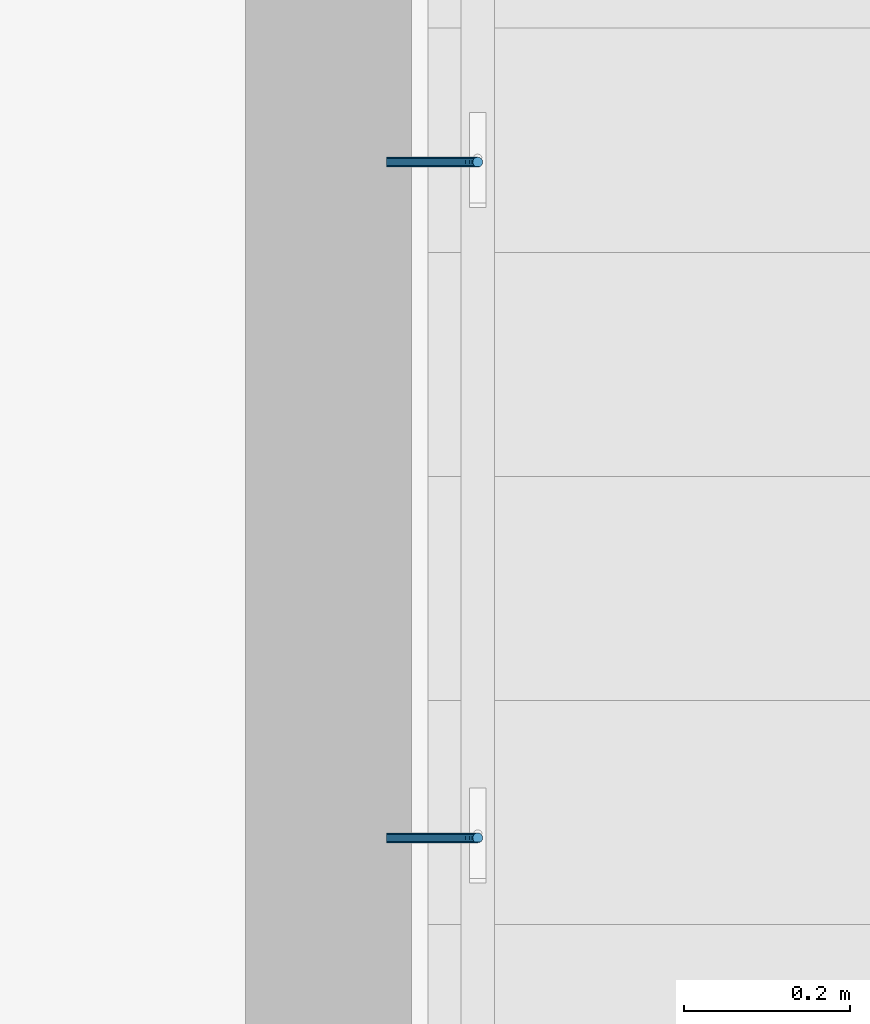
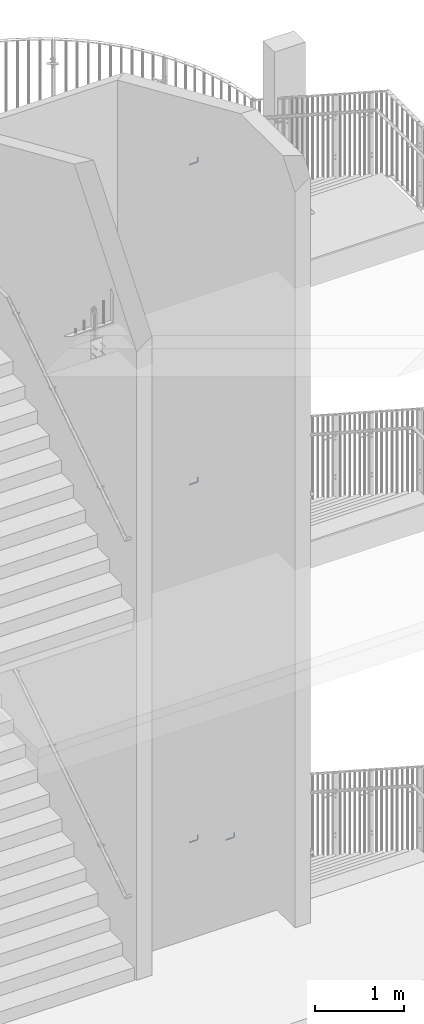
# One storey, part 135 of 296: 4 beams.
"""IFC2X3 building model written with IfcOpenShell, lengths in millimetres."""

from ifc_helpers import new_model, entity, si_unit, converted_unit, origin_with_axes, place, context, project, spatial, faceted_brep, material, element, save


model = new_model("IFC2X3")

# Units and contexts
model_context = context("Model", 3, precision=1e-09, world=origin_with_axes())
ifc_project = project(units=[si_unit("LENGTHUNIT", "METRE", prefix="MILLI"), si_unit("AREAUNIT", "SQUARE_METRE"), si_unit("VOLUMEUNIT", "CUBIC_METRE"), converted_unit("PLANEANGLEUNIT", "DEGREE", entity("IfcPlaneAngleMeasure", 0.01745329), si_unit("PLANEANGLEUNIT", "RADIAN"), dimensions=[0, 0, 0, 0, 0, 0, 0])], contexts=[model_context])

# Site, building, storey
site_placement = place(None, origin_with_axes())
site = spatial("IfcSite", under=ifc_project, at=site_placement, Name="TZD-S?d | Treppenhausgel?nder", CompositionType="ELEMENT")
building_placement = place(site_placement, origin_with_axes())
building = spatial("IfcBuilding", under=site, at=building_placement, Name="Struktur 1", CompositionType="ELEMENT")
storey_placement = place(building_placement, origin_with_axes())
storey = spatial("IfcBuildingStorey", under=building, at=storey_placement, Name="Default Storey", CompositionType="ELEMENT", Elevation=0.0)

# Beams
ifc_material = material(Name="S235JR")
beam_1_placement = place(None, origin_with_axes())
element("IfcBeam", 1, at=beam_1_placement, inside=storey, material=ifc_material, Name="-", ObjectType="-", context=model_context, shape_type="Brep", body=[
    faceted_brep([(4133.10541862, -1525.00184, 13735.126930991), (4126.89258138, -1525.00184, 13735.126930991), (4127.702899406, -1525.543277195, 13735.126930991), (4129.999, -1526.0, 13735.126930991), (4132.295100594, -1525.543277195, 13735.126930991), (4135.542277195, -1522.296100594, 13733.375120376), (4134.241640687, -1524.242640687, 13734.63539311), (4134.241640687, -1524.242640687, 13690.126930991), (4135.542277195, -1522.296100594, 13690.126930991), (4132.295100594, -1525.543277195, 13690.126930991), (4129.999, -1526.0, 13690.126930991), (4127.702899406, -1525.543277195, 13690.126930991), (4125.756359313, -1524.242640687, 13734.63539311), (4125.756359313, -1524.242640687, 13690.126930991), (4124.455722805, -1522.296100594, 13733.375120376), (4124.455722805, -1522.296100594, 13690.126930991), (4123.999, -1520.0, 13731.888527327), (4123.999, -1520.0, 13690.126930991), (4124.455722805, -1517.703899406, 13730.401934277), (4124.455722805, -1517.703899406, 13690.126930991), (4125.756359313, -1515.757359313, 13729.141661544), (4125.756359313, -1515.757359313, 13690.126930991), (4127.702899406, -1514.456722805, 13728.299574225), (4127.702899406, -1514.456722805, 13690.126930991), (4129.999, -1514.0, 13728.003872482), (4129.999, -1514.0, 13690.126930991), (4132.295100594, -1514.456722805, 13728.299574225), (4132.295100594, -1514.456722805, 13690.126930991), (4134.241640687, -1515.757359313, 13729.141661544), (4134.241640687, -1515.757359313, 13690.126930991), (4135.542277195, -1517.703899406, 13730.401934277), (4135.542277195, -1517.703899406, 13690.126930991), (4135.999, -1520.0, 13731.888527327), (4135.999, -1520.0, 13690.126930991), (4019.999, -1522.296100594, 13664.583653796), (4019.999, -1524.242640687, 13665.884290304), (4019.999, -1525.543277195, 13667.830830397), (4019.999, -1526.0, 13670.126930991), (4019.999, -1525.543277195, 13672.423031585), (4019.999, -1524.242640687, 13674.369571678), (4019.999, -1522.296100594, 13675.670208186), (4019.999, -1520.0, 13676.126930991), (4019.999, -1517.703899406, 13675.670208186), (4019.999, -1515.757359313, 13674.369571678), (4019.999, -1514.456722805, 13672.423031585), (4019.999, -1514.0, 13670.126930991), (4019.999, -1514.456722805, 13667.830830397), (4019.999, -1515.757359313, 13665.884290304), (4019.999, -1517.703899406, 13664.583653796), (4019.999, -1520.0, 13664.126930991), (4132.396279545, -1524.242640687, 13680.849674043), (4133.597910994, -1522.296100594, 13680.351942), (4130.597910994, -1525.543277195, 13681.594582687), (4128.47659065, -1526.0, 13682.473262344), (4126.355270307, -1525.543277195, 13683.351942), (4124.556901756, -1524.242640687, 13684.096850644), (4123.355270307, -1522.296100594, 13684.594582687), (4122.933313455, -1520.0, 13684.769362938), (4123.355270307, -1517.703899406, 13684.594582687), (4124.556901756, -1515.757359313, 13684.096850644), (4126.355270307, -1514.456722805, 13683.351942), (4128.47659065, -1514.0, 13682.473262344), (4130.597910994, -1514.456722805, 13681.594582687), (4132.396279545, -1515.757359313, 13680.849674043), (4133.597910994, -1517.703899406, 13680.351942), (4134.019867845, -1520.0, 13680.17716175), (4127.141135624, -1524.242640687, 13672.984795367), (4128.060824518, -1522.296100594, 13672.065106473), (4125.764723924, -1525.543277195, 13674.361207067), (4124.141135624, -1526.0, 13675.984795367), (4122.517547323, -1525.543277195, 13677.608383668), (4121.141135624, -1524.242640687, 13678.984795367), (4120.221446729, -1522.296100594, 13679.904484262), (4119.898494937, -1520.0, 13680.227436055), (4120.221446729, -1517.703899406, 13679.904484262), (4121.141135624, -1515.757359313, 13678.984795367), (4122.517547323, -1514.456722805, 13677.608383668), (4124.141135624, -1514.0, 13675.984795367), (4125.764723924, -1514.456722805, 13674.361207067), (4127.141135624, -1515.757359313, 13672.984795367), (4128.060824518, -1517.703899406, 13672.065106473), (4128.383776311, -1520.0, 13671.74215468), (4119.276256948, -1524.242640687, 13667.729651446), (4119.773988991, -1522.296100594, 13666.528019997), (4118.531348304, -1525.543277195, 13669.528019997), (4117.652668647, -1526.0, 13671.649340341), (4116.773988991, -1525.543277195, 13673.770660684), (4116.029080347, -1524.242640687, 13675.569029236), (4115.531348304, -1522.296100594, 13676.770660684), (4115.356568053, -1520.0, 13677.192617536), (4115.531348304, -1517.703899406, 13676.770660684), (4116.029080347, -1515.757359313, 13675.569029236), (4116.773988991, -1514.456722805, 13673.770660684), (4117.652668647, -1514.0, 13671.649340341), (4118.531348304, -1514.456722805, 13669.528019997), (4119.276256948, -1515.757359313, 13667.729651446), (4119.773988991, -1517.703899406, 13666.528019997), (4119.948769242, -1520.0, 13666.106063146), (4109.999, -1524.242640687, 13665.884290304), (4109.999, -1522.296100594, 13664.583653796), (4109.999, -1525.543277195, 13667.830830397), (4109.999, -1526.0, 13670.126930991), (4109.999, -1525.543277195, 13672.423031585), (4109.999, -1524.242640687, 13674.369571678), (4109.999, -1522.296100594, 13675.670208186), (4109.999, -1520.0, 13676.126930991), (4109.999, -1517.703899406, 13675.670208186), (4109.999, -1515.757359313, 13674.369571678), (4109.999, -1514.456722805, 13672.423031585), (4109.999, -1514.0, 13670.126930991), (4109.999, -1514.456722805, 13667.830830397), (4109.999, -1515.757359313, 13665.884290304), (4109.999, -1517.703899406, 13664.583653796), (4109.999, -1520.0, 13664.126930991)], [[[0, 1, 2, 3, 4]], [[5, 6, 7, 8]], [[6, 0, 4, 9, 7]], [[4, 3, 10, 9]], [[3, 2, 11, 10]], [[1, 12, 13, 11, 2]], [[12, 14, 15, 13]], [[14, 16, 17, 15]], [[16, 18, 19, 17]], [[18, 20, 21, 19]], [[20, 22, 23, 21]], [[22, 24, 25, 23]], [[24, 26, 27, 25]], [[26, 28, 29, 27]], [[28, 30, 31, 29]], [[30, 32, 33, 31]], [[32, 5, 8, 33]], [[16, 14, 12, 1, 0, 6, 5, 32, 30, 28, 26, 24, 22, 20, 18]], [[34, 35, 36, 37, 38, 39, 40, 41, 42, 43, 44, 45, 46, 47, 48, 49]], [[8, 7, 50, 51]], [[7, 9, 52, 50]], [[9, 10, 53, 52]], [[10, 11, 54, 53]], [[11, 13, 55, 54]], [[13, 15, 56, 55]], [[15, 17, 57, 56]], [[17, 19, 58, 57]], [[19, 21, 59, 58]], [[21, 23, 60, 59]], [[23, 25, 61, 60]], [[25, 27, 62, 61]], [[27, 29, 63, 62]], [[29, 31, 64, 63]], [[31, 33, 65, 64]], [[33, 8, 51, 65]], [[51, 50, 66, 67]], [[50, 52, 68, 66]], [[52, 53, 69, 68]], [[53, 54, 70, 69]], [[54, 55, 71, 70]], [[55, 56, 72, 71]], [[56, 57, 73, 72]], [[57, 58, 74, 73]], [[58, 59, 75, 74]], [[59, 60, 76, 75]], [[60, 61, 77, 76]], [[61, 62, 78, 77]], [[62, 63, 79, 78]], [[63, 64, 80, 79]], [[64, 65, 81, 80]], [[65, 51, 67, 81]], [[67, 66, 82, 83]], [[66, 68, 84, 82]], [[68, 69, 85, 84]], [[69, 70, 86, 85]], [[70, 71, 87, 86]], [[71, 72, 88, 87]], [[72, 73, 89, 88]], [[73, 74, 90, 89]], [[74, 75, 91, 90]], [[75, 76, 92, 91]], [[76, 77, 93, 92]], [[77, 78, 94, 93]], [[78, 79, 95, 94]], [[79, 80, 96, 95]], [[80, 81, 97, 96]], [[81, 67, 83, 97]], [[83, 82, 98, 99]], [[82, 84, 100, 98]], [[84, 85, 101, 100]], [[85, 86, 102, 101]], [[86, 87, 103, 102]], [[87, 88, 104, 103]], [[88, 89, 105, 104]], [[89, 90, 106, 105]], [[90, 91, 107, 106]], [[91, 92, 108, 107]], [[92, 93, 109, 108]], [[93, 94, 110, 109]], [[94, 95, 111, 110]], [[95, 96, 112, 111]], [[96, 97, 113, 112]], [[97, 83, 99, 113]], [[99, 98, 35, 34]], [[98, 100, 36, 35]], [[100, 101, 37, 36]], [[101, 102, 38, 37]], [[102, 103, 39, 38]], [[103, 104, 40, 39]], [[104, 105, 41, 40]], [[105, 106, 42, 41]], [[106, 107, 43, 42]], [[107, 108, 44, 43]], [[108, 109, 45, 44]], [[109, 110, 46, 45]], [[110, 111, 47, 46]], [[111, 112, 48, 47]], [[112, 113, 49, 48]], [[113, 99, 34, 49]]]),
])
beam_2_placement = place(None, origin_with_axes())
element("IfcBeam", 2, at=beam_2_placement, inside=storey, material=ifc_material, Name="-", ObjectType="-", context=model_context, shape_type="Brep", body=[
    faceted_brep([(4133.105419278, -1525.00183956, 9357.017363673), (4126.892580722, -1525.00183956, 9357.017363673), (4127.702899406, -1525.543277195, 9357.017363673), (4129.999, -1526.0, 9357.017363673), (4132.295100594, -1525.543277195, 9357.017363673), (4135.542277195, -1522.296100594, 9355.264959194), (4134.241640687, -1524.242640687, 9356.525659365), (4134.241640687, -1524.242640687, 9312.017363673), (4135.542277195, -1522.296100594, 9312.017363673), (4132.295100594, -1525.543277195, 9312.017363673), (4129.999, -1526.0, 9312.017363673), (4127.702899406, -1525.543277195, 9312.017363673), (4125.756359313, -1524.242640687, 9356.525659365), (4125.756359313, -1524.242640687, 9312.017363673), (4124.455722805, -1522.296100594, 9355.264959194), (4124.455722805, -1522.296100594, 9312.017363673), (4123.999, -1520.0, 9353.777861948), (4123.999, -1520.0, 9312.017363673), (4124.455722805, -1517.703899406, 9352.290764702), (4124.455722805, -1517.703899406, 9312.017363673), (4125.756359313, -1515.757359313, 9351.030064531), (4125.756359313, -1515.757359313, 9312.017363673), (4127.702899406, -1514.456722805, 9350.187691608), (4127.702899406, -1514.456722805, 9312.017363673), (4129.999, -1514.0, 9349.891889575), (4129.999, -1514.0, 9312.017363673), (4132.295100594, -1514.456722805, 9350.187691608), (4132.295100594, -1514.456722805, 9312.017363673), (4134.241640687, -1515.757359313, 9351.030064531), (4134.241640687, -1515.757359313, 9312.017363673), (4135.542277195, -1517.703899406, 9352.290764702), (4135.542277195, -1517.703899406, 9312.017363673), (4135.999, -1520.0, 9353.777861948), (4135.999, -1520.0, 9312.017363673), (4019.999, -1522.296100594, 9286.474086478), (4019.999, -1524.242640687, 9287.774722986), (4019.999, -1525.543277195, 9289.721263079), (4019.999, -1526.0, 9292.017363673), (4019.999, -1525.543277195, 9294.313464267), (4019.999, -1524.242640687, 9296.26000436), (4019.999, -1522.296100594, 9297.560640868), (4019.999, -1520.0, 9298.017363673), (4019.999, -1517.703899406, 9297.560640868), (4019.999, -1515.757359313, 9296.26000436), (4019.999, -1514.456722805, 9294.313464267), (4019.999, -1514.0, 9292.017363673), (4019.999, -1514.456722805, 9289.721263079), (4019.999, -1515.757359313, 9287.774722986), (4019.999, -1517.703899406, 9286.474086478), (4019.999, -1520.0, 9286.017363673), (4132.396279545, -1524.242640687, 9302.740106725), (4133.597910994, -1522.296100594, 9302.242374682), (4130.597910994, -1525.543277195, 9303.485015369), (4128.47659065, -1526.0, 9304.363695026), (4126.355270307, -1525.543277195, 9305.242374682), (4124.556901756, -1524.242640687, 9305.987283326), (4123.355270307, -1522.296100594, 9306.485015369), (4122.933313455, -1520.0, 9306.65979562), (4123.355270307, -1517.703899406, 9306.485015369), (4124.556901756, -1515.757359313, 9305.987283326), (4126.355270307, -1514.456722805, 9305.242374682), (4128.47659065, -1514.0, 9304.363695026), (4130.597910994, -1514.456722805, 9303.485015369), (4132.396279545, -1515.757359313, 9302.740106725), (4133.597910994, -1517.703899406, 9302.242374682), (4134.019867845, -1520.0, 9302.067594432), (4127.141135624, -1524.242640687, 9294.875228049), (4128.060824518, -1522.296100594, 9293.955539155), (4125.764723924, -1525.543277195, 9296.251639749), (4124.141135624, -1526.0, 9297.875228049), (4122.517547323, -1525.543277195, 9299.49881635), (4121.141135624, -1524.242640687, 9300.875228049), (4120.221446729, -1522.296100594, 9301.794916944), (4119.898494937, -1520.0, 9302.117868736), (4120.221446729, -1517.703899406, 9301.794916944), (4121.141135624, -1515.757359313, 9300.875228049), (4122.517547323, -1514.456722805, 9299.49881635), (4124.141135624, -1514.0, 9297.875228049), (4125.764723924, -1514.456722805, 9296.251639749), (4127.141135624, -1515.757359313, 9294.875228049), (4128.060824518, -1517.703899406, 9293.955539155), (4128.383776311, -1520.0, 9293.632587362), (4119.276256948, -1524.242640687, 9289.620084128), (4119.773988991, -1522.296100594, 9288.418452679), (4118.531348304, -1525.543277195, 9291.418452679), (4117.652668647, -1526.0, 9293.539773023), (4116.773988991, -1525.543277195, 9295.661093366), (4116.029080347, -1524.242640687, 9297.459461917), (4115.531348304, -1522.296100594, 9298.661093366), (4115.356568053, -1520.0, 9299.083050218), (4115.531348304, -1517.703899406, 9298.661093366), (4116.029080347, -1515.757359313, 9297.459461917), (4116.773988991, -1514.456722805, 9295.661093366), (4117.652668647, -1514.0, 9293.539773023), (4118.531348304, -1514.456722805, 9291.418452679), (4119.276256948, -1515.757359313, 9289.620084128), (4119.773988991, -1517.703899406, 9288.418452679), (4119.948769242, -1520.0, 9287.996495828), (4109.999, -1524.242640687, 9287.774722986), (4109.999, -1522.296100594, 9286.474086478), (4109.999, -1525.543277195, 9289.721263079), (4109.999, -1526.0, 9292.017363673), (4109.999, -1525.543277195, 9294.313464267), (4109.999, -1524.242640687, 9296.26000436), (4109.999, -1522.296100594, 9297.560640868), (4109.999, -1520.0, 9298.017363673), (4109.999, -1517.703899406, 9297.560640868), (4109.999, -1515.757359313, 9296.26000436), (4109.999, -1514.456722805, 9294.313464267), (4109.999, -1514.0, 9292.017363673), (4109.999, -1514.456722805, 9289.721263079), (4109.999, -1515.757359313, 9287.774722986), (4109.999, -1517.703899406, 9286.474086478), (4109.999, -1520.0, 9286.017363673)], [[[0, 1, 2, 3, 4]], [[5, 6, 7, 8]], [[6, 0, 4, 9, 7]], [[4, 3, 10, 9]], [[3, 2, 11, 10]], [[1, 12, 13, 11, 2]], [[12, 14, 15, 13]], [[14, 16, 17, 15]], [[16, 18, 19, 17]], [[18, 20, 21, 19]], [[20, 22, 23, 21]], [[22, 24, 25, 23]], [[24, 26, 27, 25]], [[26, 28, 29, 27]], [[28, 30, 31, 29]], [[30, 32, 33, 31]], [[32, 5, 8, 33]], [[16, 14, 12, 1, 0, 6, 5, 32, 30, 28, 26, 24, 22, 20, 18]], [[34, 35, 36, 37, 38, 39, 40, 41, 42, 43, 44, 45, 46, 47, 48, 49]], [[8, 7, 50, 51]], [[7, 9, 52, 50]], [[9, 10, 53, 52]], [[10, 11, 54, 53]], [[11, 13, 55, 54]], [[13, 15, 56, 55]], [[15, 17, 57, 56]], [[17, 19, 58, 57]], [[19, 21, 59, 58]], [[21, 23, 60, 59]], [[23, 25, 61, 60]], [[25, 27, 62, 61]], [[27, 29, 63, 62]], [[29, 31, 64, 63]], [[31, 33, 65, 64]], [[33, 8, 51, 65]], [[51, 50, 66, 67]], [[50, 52, 68, 66]], [[52, 53, 69, 68]], [[53, 54, 70, 69]], [[54, 55, 71, 70]], [[55, 56, 72, 71]], [[56, 57, 73, 72]], [[57, 58, 74, 73]], [[58, 59, 75, 74]], [[59, 60, 76, 75]], [[60, 61, 77, 76]], [[61, 62, 78, 77]], [[62, 63, 79, 78]], [[63, 64, 80, 79]], [[64, 65, 81, 80]], [[65, 51, 67, 81]], [[67, 66, 82, 83]], [[66, 68, 84, 82]], [[68, 69, 85, 84]], [[69, 70, 86, 85]], [[70, 71, 87, 86]], [[71, 72, 88, 87]], [[72, 73, 89, 88]], [[73, 74, 90, 89]], [[74, 75, 91, 90]], [[75, 76, 92, 91]], [[76, 77, 93, 92]], [[77, 78, 94, 93]], [[78, 79, 95, 94]], [[79, 80, 96, 95]], [[80, 81, 97, 96]], [[81, 67, 83, 97]], [[83, 82, 98, 99]], [[82, 84, 100, 98]], [[84, 85, 101, 100]], [[85, 86, 102, 101]], [[86, 87, 103, 102]], [[87, 88, 104, 103]], [[88, 89, 105, 104]], [[89, 90, 106, 105]], [[90, 91, 107, 106]], [[91, 92, 108, 107]], [[92, 93, 109, 108]], [[93, 94, 110, 109]], [[94, 95, 111, 110]], [[95, 96, 112, 111]], [[96, 97, 113, 112]], [[97, 83, 99, 113]], [[99, 98, 35, 34]], [[98, 100, 36, 35]], [[100, 101, 37, 36]], [[101, 102, 38, 37]], [[102, 103, 39, 38]], [[103, 104, 40, 39]], [[104, 105, 41, 40]], [[105, 106, 42, 41]], [[106, 107, 43, 42]], [[107, 108, 44, 43]], [[108, 109, 45, 44]], [[109, 110, 46, 45]], [[110, 111, 47, 46]], [[111, 112, 48, 47]], [[112, 113, 49, 48]], [[113, 99, 34, 49]]]),
])
beam_3_placement = place(None, origin_with_axes())
element("IfcBeam", 3, at=beam_3_placement, inside=storey, material=ifc_material, Name="-", ObjectType="-", context=model_context, shape_type="Brep", body=[
    faceted_brep([(4133.105415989, -1525.001841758, 4462.704729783), (4126.892584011, -1525.001841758, 4462.704729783), (4127.702899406, -1525.543277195, 4462.704729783), (4129.999, -1526.0, 4462.704729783), (4132.295100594, -1525.543277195, 4462.704729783), (4135.542277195, -1522.296100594, 4460.955290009), (4134.241640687, -1524.242640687, 4462.213856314), (4134.241640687, -1524.242640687, 4417.704729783), (4135.542277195, -1522.296100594, 4417.704729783), (4132.295100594, -1525.543277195, 4417.704729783), (4129.999, -1526.0, 4417.704729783), (4127.702899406, -1525.543277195, 4417.704729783), (4125.756359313, -1524.242640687, 4462.213856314), (4125.756359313, -1524.242640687, 4417.704729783), (4124.455722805, -1522.296100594, 4460.955290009), (4124.455722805, -1522.296100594, 4417.704729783), (4123.999, -1520.0, 4459.470709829), (4123.999, -1520.0, 4417.704729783), (4124.455722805, -1517.703899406, 4457.986129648), (4124.455722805, -1517.703899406, 4417.704729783), (4125.756359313, -1515.757359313, 4456.727563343), (4125.756359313, -1515.757359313, 4417.704729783), (4127.702899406, -1514.456722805, 4455.886616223), (4127.702899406, -1514.456722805, 4417.704729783), (4129.999, -1514.0, 4455.591314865), (4129.999, -1514.0, 4417.704729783), (4132.295100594, -1514.456722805, 4455.886616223), (4132.295100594, -1514.456722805, 4417.704729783), (4134.241640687, -1515.757359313, 4456.727563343), (4134.241640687, -1515.757359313, 4417.704729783), (4135.542277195, -1517.703899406, 4457.986129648), (4135.542277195, -1517.703899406, 4417.704729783), (4135.999, -1520.0, 4459.470709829), (4135.999, -1520.0, 4417.704729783), (4019.999, -1522.296100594, 4392.161452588), (4019.999, -1524.242640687, 4393.462089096), (4019.999, -1525.543277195, 4395.408629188), (4019.999, -1526.0, 4397.704729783), (4019.999, -1525.543277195, 4400.000830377), (4019.999, -1524.242640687, 4401.94737047), (4019.999, -1522.296100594, 4403.248006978), (4019.999, -1520.0, 4403.704729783), (4019.999, -1517.703899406, 4403.248006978), (4019.999, -1515.757359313, 4401.94737047), (4019.999, -1514.456722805, 4400.000830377), (4019.999, -1514.0, 4397.704729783), (4019.999, -1514.456722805, 4395.408629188), (4019.999, -1515.757359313, 4393.462089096), (4019.999, -1517.703899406, 4392.161452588), (4019.999, -1520.0, 4391.704729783), (4132.396279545, -1524.242640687, 4408.427472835), (4133.597910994, -1522.296100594, 4407.929740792), (4130.597910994, -1525.543277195, 4409.172381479), (4128.47659065, -1526.0, 4410.051061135), (4126.355270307, -1525.543277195, 4410.929740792), (4124.556901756, -1524.242640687, 4411.674649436), (4123.355270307, -1522.296100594, 4412.172381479), (4122.933313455, -1520.0, 4412.34716173), (4123.355270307, -1517.703899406, 4412.172381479), (4124.556901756, -1515.757359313, 4411.674649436), (4126.355270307, -1514.456722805, 4410.929740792), (4128.47659065, -1514.0, 4410.051061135), (4130.597910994, -1514.456722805, 4409.172381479), (4132.396279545, -1515.757359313, 4408.427472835), (4133.597910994, -1517.703899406, 4407.929740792), (4134.019867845, -1520.0, 4407.754960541), (4127.141135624, -1524.242640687, 4400.562594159), (4128.060824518, -1522.296100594, 4399.642905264), (4125.764723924, -1525.543277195, 4401.939005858), (4124.141135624, -1526.0, 4403.562594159), (4122.517547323, -1525.543277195, 4405.186182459), (4121.141135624, -1524.242640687, 4406.562594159), (4120.221446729, -1522.296100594, 4407.482283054), (4119.898494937, -1520.0, 4407.805234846), (4120.221446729, -1517.703899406, 4407.482283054), (4121.141135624, -1515.757359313, 4406.562594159), (4122.517547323, -1514.456722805, 4405.186182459), (4124.141135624, -1514.0, 4403.562594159), (4125.764723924, -1514.456722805, 4401.939005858), (4127.141135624, -1515.757359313, 4400.562594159), (4128.060824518, -1517.703899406, 4399.642905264), (4128.383776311, -1520.0, 4399.319953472), (4119.276256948, -1524.242640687, 4395.307450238), (4119.773988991, -1522.296100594, 4394.105818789), (4118.531348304, -1525.543277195, 4397.105818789), (4117.652668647, -1526.0, 4399.227139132), (4116.773988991, -1525.543277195, 4401.348459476), (4116.029080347, -1524.242640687, 4403.146828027), (4115.531348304, -1522.296100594, 4404.348459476), (4115.356568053, -1520.0, 4404.770416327), (4115.531348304, -1517.703899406, 4404.348459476), (4116.029080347, -1515.757359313, 4403.146828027), (4116.773988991, -1514.456722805, 4401.348459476), (4117.652668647, -1514.0, 4399.227139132), (4118.531348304, -1514.456722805, 4397.105818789), (4119.276256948, -1515.757359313, 4395.307450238), (4119.773988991, -1517.703899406, 4394.105818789), (4119.948769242, -1520.0, 4393.683861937), (4109.999, -1524.242640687, 4393.462089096), (4109.999, -1522.296100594, 4392.161452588), (4109.999, -1525.543277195, 4395.408629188), (4109.999, -1526.0, 4397.704729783), (4109.999, -1525.543277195, 4400.000830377), (4109.999, -1524.242640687, 4401.94737047), (4109.999, -1522.296100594, 4403.248006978), (4109.999, -1520.0, 4403.704729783), (4109.999, -1517.703899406, 4403.248006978), (4109.999, -1515.757359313, 4401.94737047), (4109.999, -1514.456722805, 4400.000830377), (4109.999, -1514.0, 4397.704729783), (4109.999, -1514.456722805, 4395.408629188), (4109.999, -1515.757359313, 4393.462089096), (4109.999, -1517.703899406, 4392.161452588), (4109.999, -1520.0, 4391.704729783)], [[[0, 1, 2, 3, 4]], [[5, 6, 7, 8]], [[6, 0, 4, 9, 7]], [[4, 3, 10, 9]], [[3, 2, 11, 10]], [[1, 12, 13, 11, 2]], [[12, 14, 15, 13]], [[14, 16, 17, 15]], [[16, 18, 19, 17]], [[18, 20, 21, 19]], [[20, 22, 23, 21]], [[22, 24, 25, 23]], [[24, 26, 27, 25]], [[26, 28, 29, 27]], [[28, 30, 31, 29]], [[30, 32, 33, 31]], [[32, 5, 8, 33]], [[16, 14, 12, 1, 0, 6, 5, 32, 30, 28, 26, 24, 22, 20, 18]], [[34, 35, 36, 37, 38, 39, 40, 41, 42, 43, 44, 45, 46, 47, 48, 49]], [[8, 7, 50, 51]], [[7, 9, 52, 50]], [[9, 10, 53, 52]], [[10, 11, 54, 53]], [[11, 13, 55, 54]], [[13, 15, 56, 55]], [[15, 17, 57, 56]], [[17, 19, 58, 57]], [[19, 21, 59, 58]], [[21, 23, 60, 59]], [[23, 25, 61, 60]], [[25, 27, 62, 61]], [[27, 29, 63, 62]], [[29, 31, 64, 63]], [[31, 33, 65, 64]], [[33, 8, 51, 65]], [[51, 50, 66, 67]], [[50, 52, 68, 66]], [[52, 53, 69, 68]], [[53, 54, 70, 69]], [[54, 55, 71, 70]], [[55, 56, 72, 71]], [[56, 57, 73, 72]], [[57, 58, 74, 73]], [[58, 59, 75, 74]], [[59, 60, 76, 75]], [[60, 61, 77, 76]], [[61, 62, 78, 77]], [[62, 63, 79, 78]], [[63, 64, 80, 79]], [[64, 65, 81, 80]], [[65, 51, 67, 81]], [[67, 66, 82, 83]], [[66, 68, 84, 82]], [[68, 69, 85, 84]], [[69, 70, 86, 85]], [[70, 71, 87, 86]], [[71, 72, 88, 87]], [[72, 73, 89, 88]], [[73, 74, 90, 89]], [[74, 75, 91, 90]], [[75, 76, 92, 91]], [[76, 77, 93, 92]], [[77, 78, 94, 93]], [[78, 79, 95, 94]], [[79, 80, 96, 95]], [[80, 81, 97, 96]], [[81, 67, 83, 97]], [[83, 82, 98, 99]], [[82, 84, 100, 98]], [[84, 85, 101, 100]], [[85, 86, 102, 101]], [[86, 87, 103, 102]], [[87, 88, 104, 103]], [[88, 89, 105, 104]], [[89, 90, 106, 105]], [[90, 91, 107, 106]], [[91, 92, 108, 107]], [[92, 93, 109, 108]], [[93, 94, 110, 109]], [[94, 95, 111, 110]], [[95, 96, 112, 111]], [[96, 97, 113, 112]], [[97, 83, 99, 113]], [[99, 98, 35, 34]], [[98, 100, 36, 35]], [[100, 101, 37, 36]], [[101, 102, 38, 37]], [[102, 103, 39, 38]], [[103, 104, 40, 39]], [[104, 105, 41, 40]], [[105, 106, 42, 41]], [[106, 107, 43, 42]], [[107, 108, 44, 43]], [[108, 109, 45, 44]], [[109, 110, 46, 45]], [[110, 111, 47, 46]], [[111, 112, 48, 47]], [[112, 113, 49, 48]], [[113, 99, 34, 49]]]),
])
beam_4_placement = place(None, origin_with_axes())
element("IfcBeam", 4, at=beam_4_placement, inside=storey, material=ifc_material, Name="-", ObjectType="-", context=model_context, shape_type="Brep", body=[
    faceted_brep([(4133.105415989, -2340.001841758, 4989.417636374), (4126.892584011, -2340.001841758, 4989.417636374), (4127.702899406, -2340.543277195, 4989.417636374), (4129.999, -2341.0, 4989.417636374), (4132.295100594, -2340.543277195, 4989.417636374), (4135.542277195, -2337.296100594, 4987.6681966), (4134.241640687, -2339.242640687, 4988.926762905), (4134.241640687, -2339.242640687, 4944.417636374), (4135.542277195, -2337.296100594, 4944.417636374), (4132.295100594, -2340.543277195, 4944.417636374), (4129.999, -2341.0, 4944.417636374), (4127.702899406, -2340.543277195, 4944.417636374), (4125.756359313, -2339.242640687, 4988.926762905), (4125.756359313, -2339.242640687, 4944.417636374), (4124.455722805, -2337.296100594, 4987.6681966), (4124.455722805, -2337.296100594, 4944.417636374), (4123.999, -2335.0, 4986.18361642), (4123.999, -2335.0, 4944.417636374), (4124.455722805, -2332.703899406, 4984.69903624), (4124.455722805, -2332.703899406, 4944.417636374), (4125.756359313, -2330.757359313, 4983.440469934), (4125.756359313, -2330.757359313, 4944.417636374), (4127.702899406, -2329.456722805, 4982.599522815), (4127.702899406, -2329.456722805, 4944.417636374), (4129.999, -2329.0, 4982.304221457), (4129.999, -2329.0, 4944.417636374), (4132.295100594, -2329.456722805, 4982.599522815), (4132.295100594, -2329.456722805, 4944.417636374), (4134.241640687, -2330.757359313, 4983.440469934), (4134.241640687, -2330.757359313, 4944.417636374), (4135.542277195, -2332.703899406, 4984.69903624), (4135.542277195, -2332.703899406, 4944.417636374), (4135.999, -2335.0, 4986.18361642), (4135.999, -2335.0, 4944.417636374), (4019.999, -2337.296100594, 4918.874359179), (4019.999, -2339.242640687, 4920.174995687), (4019.999, -2340.543277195, 4922.12153578), (4019.999, -2341.0, 4924.417636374), (4019.999, -2340.543277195, 4926.713736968), (4019.999, -2339.242640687, 4928.660277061), (4019.999, -2337.296100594, 4929.960913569), (4019.999, -2335.0, 4930.417636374), (4019.999, -2332.703899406, 4929.960913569), (4019.999, -2330.757359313, 4928.660277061), (4019.999, -2329.456722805, 4926.713736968), (4019.999, -2329.0, 4924.417636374), (4019.999, -2329.456722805, 4922.12153578), (4019.999, -2330.757359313, 4920.174995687), (4019.999, -2332.703899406, 4918.874359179), (4019.999, -2335.0, 4918.417636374), (4132.396279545, -2339.242640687, 4935.140379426), (4133.597910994, -2337.296100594, 4934.642647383), (4130.597910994, -2340.543277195, 4935.88528807), (4128.47659065, -2341.0, 4936.763967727), (4126.355270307, -2340.543277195, 4937.642647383), (4124.556901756, -2339.242640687, 4938.387556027), (4123.355270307, -2337.296100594, 4938.88528807), (4122.933313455, -2335.0, 4939.060068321), (4123.355270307, -2332.703899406, 4938.88528807), (4124.556901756, -2330.757359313, 4938.387556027), (4126.355270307, -2329.456722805, 4937.642647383), (4128.47659065, -2329.0, 4936.763967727), (4130.597910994, -2329.456722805, 4935.88528807), (4132.396279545, -2330.757359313, 4935.140379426), (4133.597910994, -2332.703899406, 4934.642647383), (4134.019867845, -2335.0, 4934.467867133), (4127.141135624, -2339.242640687, 4927.27550075), (4128.060824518, -2337.296100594, 4926.355811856), (4125.764723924, -2340.543277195, 4928.65191245), (4124.141135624, -2341.0, 4930.27550075), (4122.517547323, -2340.543277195, 4931.899089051), (4121.141135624, -2339.242640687, 4933.27550075), (4120.221446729, -2337.296100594, 4934.195189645), (4119.898494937, -2335.0, 4934.518141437), (4120.221446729, -2332.703899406, 4934.195189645), (4121.141135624, -2330.757359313, 4933.27550075), (4122.517547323, -2329.456722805, 4931.899089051), (4124.141135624, -2329.0, 4930.27550075), (4125.764723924, -2329.456722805, 4928.65191245), (4127.141135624, -2330.757359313, 4927.27550075), (4128.060824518, -2332.703899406, 4926.355811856), (4128.383776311, -2335.0, 4926.032860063), (4119.276256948, -2339.242640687, 4922.020356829), (4119.773988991, -2337.296100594, 4920.81872538), (4118.531348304, -2340.543277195, 4923.81872538), (4117.652668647, -2341.0, 4925.940045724), (4116.773988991, -2340.543277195, 4928.061366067), (4116.029080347, -2339.242640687, 4929.859734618), (4115.531348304, -2337.296100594, 4931.061366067), (4115.356568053, -2335.0, 4931.483322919), (4115.531348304, -2332.703899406, 4931.061366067), (4116.029080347, -2330.757359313, 4929.859734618), (4116.773988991, -2329.456722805, 4928.061366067), (4117.652668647, -2329.0, 4925.940045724), (4118.531348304, -2329.456722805, 4923.81872538), (4119.276256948, -2330.757359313, 4922.020356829), (4119.773988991, -2332.703899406, 4920.81872538), (4119.948769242, -2335.0, 4920.396768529), (4109.999, -2339.242640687, 4920.174995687), (4109.999, -2337.296100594, 4918.874359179), (4109.999, -2340.543277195, 4922.12153578), (4109.999, -2341.0, 4924.417636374), (4109.999, -2340.543277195, 4926.713736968), (4109.999, -2339.242640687, 4928.660277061), (4109.999, -2337.296100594, 4929.960913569), (4109.999, -2335.0, 4930.417636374), (4109.999, -2332.703899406, 4929.960913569), (4109.999, -2330.757359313, 4928.660277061), (4109.999, -2329.456722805, 4926.713736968), (4109.999, -2329.0, 4924.417636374), (4109.999, -2329.456722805, 4922.12153578), (4109.999, -2330.757359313, 4920.174995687), (4109.999, -2332.703899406, 4918.874359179), (4109.999, -2335.0, 4918.417636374)], [[[0, 1, 2, 3, 4]], [[5, 6, 7, 8]], [[6, 0, 4, 9, 7]], [[4, 3, 10, 9]], [[3, 2, 11, 10]], [[1, 12, 13, 11, 2]], [[12, 14, 15, 13]], [[14, 16, 17, 15]], [[16, 18, 19, 17]], [[18, 20, 21, 19]], [[20, 22, 23, 21]], [[22, 24, 25, 23]], [[24, 26, 27, 25]], [[26, 28, 29, 27]], [[28, 30, 31, 29]], [[30, 32, 33, 31]], [[32, 5, 8, 33]], [[16, 14, 12, 1, 0, 6, 5, 32, 30, 28, 26, 24, 22, 20, 18]], [[34, 35, 36, 37, 38, 39, 40, 41, 42, 43, 44, 45, 46, 47, 48, 49]], [[8, 7, 50, 51]], [[7, 9, 52, 50]], [[9, 10, 53, 52]], [[10, 11, 54, 53]], [[11, 13, 55, 54]], [[13, 15, 56, 55]], [[15, 17, 57, 56]], [[17, 19, 58, 57]], [[19, 21, 59, 58]], [[21, 23, 60, 59]], [[23, 25, 61, 60]], [[25, 27, 62, 61]], [[27, 29, 63, 62]], [[29, 31, 64, 63]], [[31, 33, 65, 64]], [[33, 8, 51, 65]], [[51, 50, 66, 67]], [[50, 52, 68, 66]], [[52, 53, 69, 68]], [[53, 54, 70, 69]], [[54, 55, 71, 70]], [[55, 56, 72, 71]], [[56, 57, 73, 72]], [[57, 58, 74, 73]], [[58, 59, 75, 74]], [[59, 60, 76, 75]], [[60, 61, 77, 76]], [[61, 62, 78, 77]], [[62, 63, 79, 78]], [[63, 64, 80, 79]], [[64, 65, 81, 80]], [[65, 51, 67, 81]], [[67, 66, 82, 83]], [[66, 68, 84, 82]], [[68, 69, 85, 84]], [[69, 70, 86, 85]], [[70, 71, 87, 86]], [[71, 72, 88, 87]], [[72, 73, 89, 88]], [[73, 74, 90, 89]], [[74, 75, 91, 90]], [[75, 76, 92, 91]], [[76, 77, 93, 92]], [[77, 78, 94, 93]], [[78, 79, 95, 94]], [[79, 80, 96, 95]], [[80, 81, 97, 96]], [[81, 67, 83, 97]], [[83, 82, 98, 99]], [[82, 84, 100, 98]], [[84, 85, 101, 100]], [[85, 86, 102, 101]], [[86, 87, 103, 102]], [[87, 88, 104, 103]], [[88, 89, 105, 104]], [[89, 90, 106, 105]], [[90, 91, 107, 106]], [[91, 92, 108, 107]], [[92, 93, 109, 108]], [[93, 94, 110, 109]], [[94, 95, 111, 110]], [[95, 96, 112, 111]], [[96, 97, 113, 112]], [[97, 83, 99, 113]], [[99, 98, 35, 34]], [[98, 100, 36, 35]], [[100, 101, 37, 36]], [[101, 102, 38, 37]], [[102, 103, 39, 38]], [[103, 104, 40, 39]], [[104, 105, 41, 40]], [[105, 106, 42, 41]], [[106, 107, 43, 42]], [[107, 108, 44, 43]], [[108, 109, 45, 44]], [[109, 110, 46, 45]], [[110, 111, 47, 46]], [[111, 112, 48, 47]], [[112, 113, 49, 48]], [[113, 99, 34, 49]]]),
])

save(model, "model.ifc")
